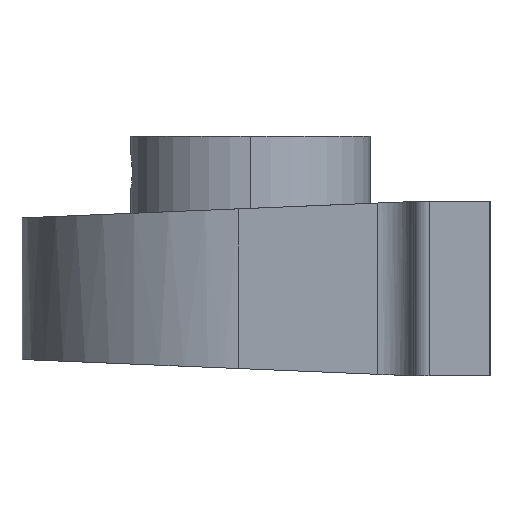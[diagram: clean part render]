
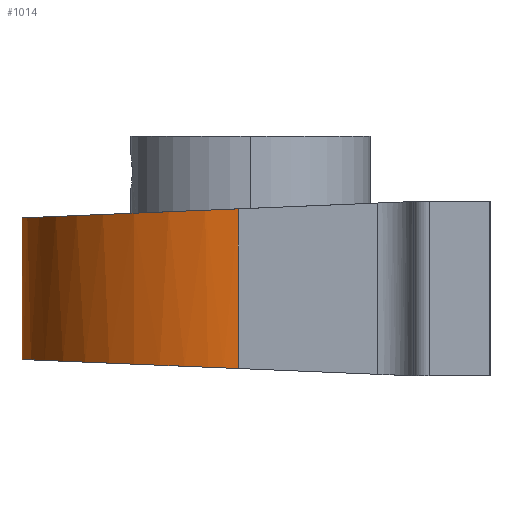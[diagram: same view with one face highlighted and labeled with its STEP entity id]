
A CAD part, left-side view. The second image highlights one B-rep face of the part: STEP entity #1014.
In plain terms, the highlighted cylindrical face has radius 21 mm (diameter 42 mm), a partial arc.
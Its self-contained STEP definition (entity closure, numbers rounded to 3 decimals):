
#592 = AXIS2_PLACEMENT_3D ( 'NONE', #13943, #10663, #6057 ) ;
#886 = VECTOR ( 'NONE', #10594, 1000. ) ;
#1014 = ADVANCED_FACE ( 'NONE', ( #5977 ), #4873, .T. ) ;
#1048 = CARTESIAN_POINT ( 'NONE',  ( 10.529, 23.099, -7.329 ) ) ;
#1097 = CARTESIAN_POINT ( 'NONE',  ( 10.529, 23.099, -7.329 ) ) ;
#1241 = ORIENTED_EDGE ( 'NONE', *, *, #6416, .T. ) ;
#1267 = CARTESIAN_POINT ( 'NONE',  ( 52.471, 23.099, 7.329 ) ) ;
#2020 = ORIENTED_EDGE ( 'NONE', *, *, #9226, .T. ) ;
#2985 = VERTEX_POINT ( 'NONE', #12045 ) ;
#3214 = CARTESIAN_POINT ( 'NONE',  ( 12.516, 61.015, -5.749 ) ) ;
#3935 = EDGE_CURVE ( 'NONE', #2985, #5792, #13052, .T. ) ;
#4047 = LINE ( 'NONE', #7405, #886 ) ;
#4098 = CARTESIAN_POINT ( 'NONE',  ( 12.516, 61.015, 5.749 ) ) ;
#4873 = CYLINDRICAL_SURFACE ( 'NONE', #592, 21. ) ;
#5225 = CARTESIAN_POINT ( 'NONE',  ( 52.471, 23.099, 7.329 ) ) ;
#5375 = CARTESIAN_POINT ( 'NONE',  ( 10.529, 23.099, 7.329 ) ) ;
#5769 = VERTEX_POINT ( 'NONE', #1097 ) ;
#5792 = VERTEX_POINT ( 'NONE', #1267 ) ;
#5977 = FACE_OUTER_BOUND ( 'NONE', #6275, .T. ) ;
#6057 = DIRECTION ( 'NONE',  ( 1., 0., 0. ) ) ;
#6275 = EDGE_LOOP ( 'NONE', ( #2020, #9812, #9265, #1241 ) ) ;
#6416 = EDGE_CURVE ( 'NONE', #5792, #7862, #13213, .T. ) ;
#7405 = CARTESIAN_POINT ( 'NONE',  ( 10.529, 23.099, 0. ) ) ;
#7491 = DIRECTION ( 'NONE',  ( 0., 0., -1. ) ) ;
#7574 = EDGE_CURVE ( 'NONE', #2985, #5769, #4047, .T. ) ;
#7862 = VERTEX_POINT ( 'NONE', #13932 ) ;
#8073 = VECTOR ( 'NONE', #7491, 1000. ) ;
#8601 = CARTESIAN_POINT ( 'NONE',  ( 52.471, 23.099, 0. ) ) ;
#9226 = EDGE_CURVE ( 'NONE', #7862, #5769, #12383, .T. ) ;
#9265 = ORIENTED_EDGE ( 'NONE', *, *, #3935, .T. ) ;
#9812 = ORIENTED_EDGE ( 'NONE', *, *, #7574, .F. ) ;
#10594 = DIRECTION ( 'NONE',  ( 0., 0., -1. ) ) ;
#10663 = DIRECTION ( 'NONE',  ( 0., 0., 1. ) ) ;
#10791 = CARTESIAN_POINT ( 'NONE',  ( 50.484, 61.015, 5.749 ) ) ;
#12045 = CARTESIAN_POINT ( 'NONE',  ( 10.529, 23.099, 7.329 ) ) ;
#12121 = CARTESIAN_POINT ( 'NONE',  ( 50.484, 61.015, -5.749 ) ) ;
#12383 =( BOUNDED_CURVE ( )  B_SPLINE_CURVE ( 3, ( #13406, #12121, #3214, #1048 ),
 .UNSPECIFIED., .F., .F. ) 
 B_SPLINE_CURVE_WITH_KNOTS ( ( 4, 4 ),
 ( 1.623, 4.66 ),
 .UNSPECIFIED. ) 
 CURVE ( )  GEOMETRIC_REPRESENTATION_ITEM ( )  RATIONAL_B_SPLINE_CURVE ( ( 1., 0.368, 0.368, 1. ) ) 
 REPRESENTATION_ITEM ( '' )  );
#13052 =( BOUNDED_CURVE ( )  B_SPLINE_CURVE ( 3, ( #5375, #4098, #10791, #5225 ),
 .UNSPECIFIED., .F., .T. ) 
 B_SPLINE_CURVE_WITH_KNOTS ( ( 4, 4 ),
 ( 1.623, 4.66 ),
 .UNSPECIFIED. ) 
 CURVE ( )  GEOMETRIC_REPRESENTATION_ITEM ( )  RATIONAL_B_SPLINE_CURVE ( ( 1., 0.368, 0.368, 1. ) ) 
 REPRESENTATION_ITEM ( '' )  );
#13213 = LINE ( 'NONE', #8601, #8073 ) ;
#13406 = CARTESIAN_POINT ( 'NONE',  ( 52.471, 23.099, -7.329 ) ) ;
#13932 = CARTESIAN_POINT ( 'NONE',  ( 52.471, 23.099, -7.329 ) ) ;
#13943 = CARTESIAN_POINT ( 'NONE',  ( 31.5, 22., 8. ) ) ;
